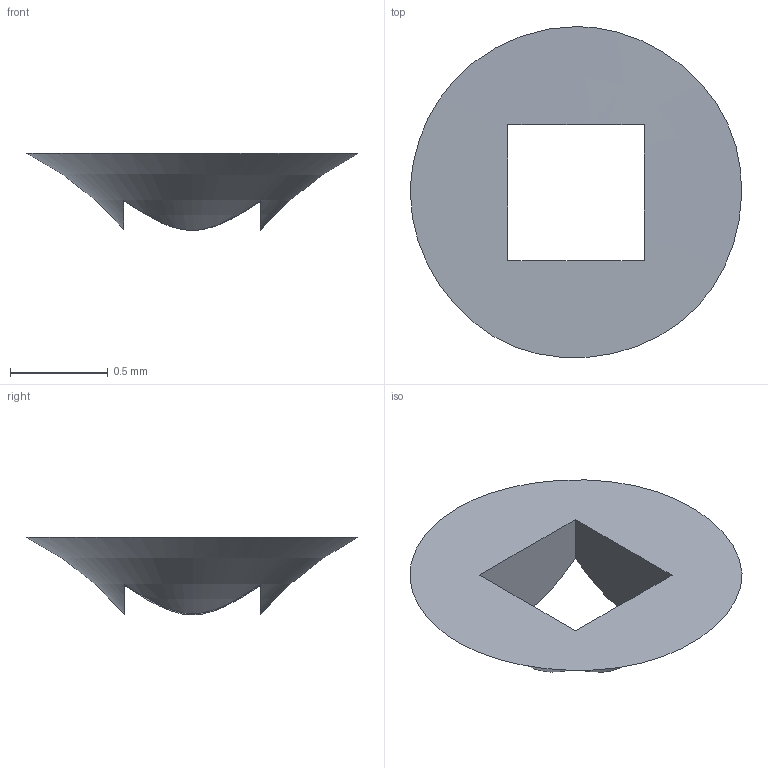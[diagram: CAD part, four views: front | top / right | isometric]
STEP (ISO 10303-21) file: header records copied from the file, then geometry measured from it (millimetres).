
FILE_DESCRIPTION(/* description */ ('STEP AP242 Edition 2','CAx-IF Rec.Pracs.---Representation and Presentation of Product Manufacturing Information (PMI)---4.0---2014-10-13','CAx-IF Rec.Pracs.---3D Tessellated Geometry---0.4---2014-09-14','2;1','CAx-IF Rec.Pracs.---User Defined Attributes---1.5---2016-08-15'),/* implementation_level */ '2;1');
FILE_NAME(/* name */ 'Drone Layout - Surface 133',/* time_stamp */ '2026-10-04T22:22:51Z',/* author */ (''),/* organization */ (''),/* preprocessor_version */ 'ST-DEVELOPER v20',/* originating_system */ 'ONSHAPE BY PTC INC, 1.221',/* authorisation */ ' ');
FILE_SCHEMA (('AP242_MANAGED_MODEL_BASED_3D_ENGINEERING_MIM_LF { 1 0 10303 442 3 1 4 }'));
Length unit declared in the file: metre
Products named in the file (1): Pin:17__Body5_8
Bounding box: 1.7 x 1.7 x 0.4 mm (x, y, z)
Volume: 0.2 mm3; surface area: 5 mm2
Topology: 1 solids, 1 shells, 6 faces, 18 edges, 12 vertices
Faces by surface type: plane 4, torus 1, cone 1
Entity records: 216 total; most frequent: CARTESIAN_POINT 73, ORIENTED_EDGE 32, DIRECTION 18, EDGE_CURVE 16, VERTEX_POINT 11, B_SPLINE_CURVE_WITH_KNOTS 8, EDGE_LOOP 7, FACE_BOUND 7
